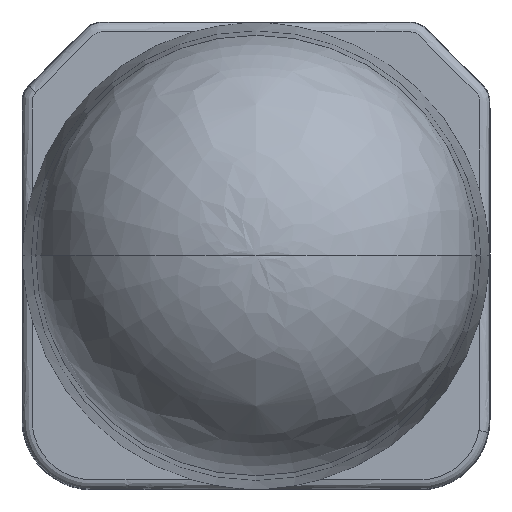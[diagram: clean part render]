
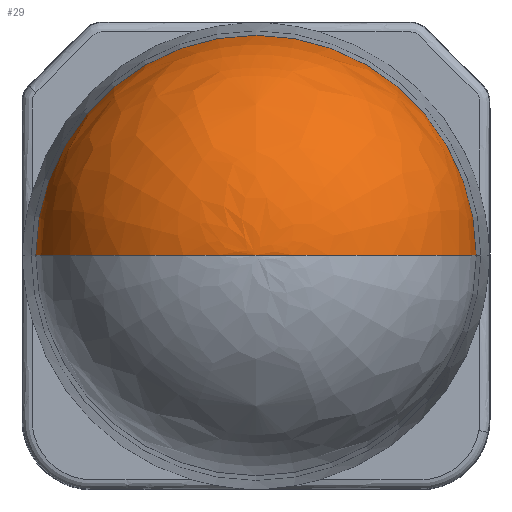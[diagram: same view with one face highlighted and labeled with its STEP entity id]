
A CAD part, top view. The second image highlights one B-rep face of the part: STEP entity #29.
In plain terms, the highlighted free-form (B-spline) face has degree [2, 2] with [5, 3] control points.
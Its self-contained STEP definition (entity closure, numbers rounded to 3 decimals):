
#29=ADVANCED_FACE('',(#49),#322,.T.);
#49=FACE_OUTER_BOUND('',#70,.T.);
#70=EDGE_LOOP('',(#135,#136,#137,#138));
#135=ORIENTED_EDGE('',*,*,#216,.T.);
#136=ORIENTED_EDGE('',*,*,#200,.F.);
#137=ORIENTED_EDGE('',*,*,#199,.T.);
#138=ORIENTED_EDGE('',*,*,#201,.T.);
#199=EDGE_CURVE('',#296,#297,#258,.T.);
#200=EDGE_CURVE('',#296,#298,#259,.T.);
#201=EDGE_CURVE('',#297,#308,#260,.T.);
#216=EDGE_CURVE('',#308,#298,#263,.T.);
#258=TRIMMED_CURVE($,#272,(#1894),(#1895),.T.,.CARTESIAN.);
#259=TRIMMED_CURVE($,#273,(#1897),(#1898),.T.,.CARTESIAN.);
#260=TRIMMED_CURVE($,#274,(#1900),(#1901),.T.,.CARTESIAN.);
#263=TRIMMED_CURVE($,#277,(#2249),(#2250),.T.,.CARTESIAN.);
#272=CIRCLE('',#362,4.704);
#273=CIRCLE('',#363,4.714);
#274=CIRCLE('',#364,4.704);
#277=CIRCLE('',#367,4.714);
#296=VERTEX_POINT('',#1402);
#297=VERTEX_POINT('',#1403);
#298=VERTEX_POINT('',#1404);
#308=VERTEX_POINT('',#1414);
#322=(
BOUNDED_SURFACE()
B_SPLINE_SURFACE(2,2,((#894,#895,#896),(#897,#898,#899),(#900,#901,#902),
(#903,#904,#905),(#906,#907,#908)),.UNSPECIFIED.,.F.,.F.,.F.)
B_SPLINE_SURFACE_WITH_KNOTS((3,2,3),(3,3),(0.,7.389,14.779),
(0.,7.097),.UNSPECIFIED.)
GEOMETRIC_REPRESENTATION_ITEM()
RATIONAL_B_SPLINE_SURFACE(((1.,0.73,1.),(0.707,
0.516,0.707),(1.,0.73,1.),(0.707,
0.516,0.707),(1.,0.73,1.)))
REPRESENTATION_ITEM('')
SURFACE()
);
#362=AXIS2_PLACEMENT_3D($,#1893,#392,#393);
#363=AXIS2_PLACEMENT_3D($,#1896,#394,#395);
#364=AXIS2_PLACEMENT_3D($,#1899,#396,#397);
#367=AXIS2_PLACEMENT_3D($,#2248,#402,#403);
#392=DIRECTION('',(0.,0.,1.));
#393=DIRECTION('',(1.,0.,0.));
#394=DIRECTION('',(0.,-1.,0.));
#395=DIRECTION('',(0.998,0.,0.065));
#396=DIRECTION('',(0.,0.,1.));
#397=DIRECTION('',(0.,1.,0.));
#402=DIRECTION('',(0.,1.,0.));
#403=DIRECTION('',(-0.998,0.,0.065));
#894=CARTESIAN_POINT('',(4.704,0.,5.594));
#895=CARTESIAN_POINT('',(4.416,0.,10.));
#896=CARTESIAN_POINT('',(0.,0.,10.));
#897=CARTESIAN_POINT('',(4.704,4.704,5.594));
#898=CARTESIAN_POINT('',(4.416,4.416,10.));
#899=CARTESIAN_POINT('',(0.,0.,10.));
#900=CARTESIAN_POINT('',(0.,4.704,5.594));
#901=CARTESIAN_POINT('',(0.,4.416,10.));
#902=CARTESIAN_POINT('',(0.,0.,10.));
#903=CARTESIAN_POINT('',(-4.704,4.704,5.594));
#904=CARTESIAN_POINT('',(-4.416,4.416,10.));
#905=CARTESIAN_POINT('',(0.,0.,10.));
#906=CARTESIAN_POINT('',(-4.704,0.,5.594));
#907=CARTESIAN_POINT('',(-4.416,0.,10.));
#908=CARTESIAN_POINT('',(0.,0.,10.));
#1402=CARTESIAN_POINT('',(4.704,0.,5.594));
#1403=CARTESIAN_POINT('',(0.,4.704,5.594));
#1404=CARTESIAN_POINT('',(0.,0.,10.));
#1414=CARTESIAN_POINT('',(-4.704,0.,5.594));
#1893=CARTESIAN_POINT('',(0.,0.,5.594));
#1894=CARTESIAN_POINT('',(4.704,0.,5.594));
#1895=CARTESIAN_POINT('',(0.,4.704,5.594));
#1896=CARTESIAN_POINT('',(0.,0.,5.286));
#1897=CARTESIAN_POINT('',(4.704,0.,5.594));
#1898=CARTESIAN_POINT('',(0.,0.,10.));
#1899=CARTESIAN_POINT('',(0.,0.,5.594));
#1900=CARTESIAN_POINT('',(0.,4.704,5.594));
#1901=CARTESIAN_POINT('',(-4.704,0.,5.594));
#2248=CARTESIAN_POINT('',(0.,0.,5.286));
#2249=CARTESIAN_POINT('',(-4.704,0.,5.594));
#2250=CARTESIAN_POINT('',(0.,0.,10.));
